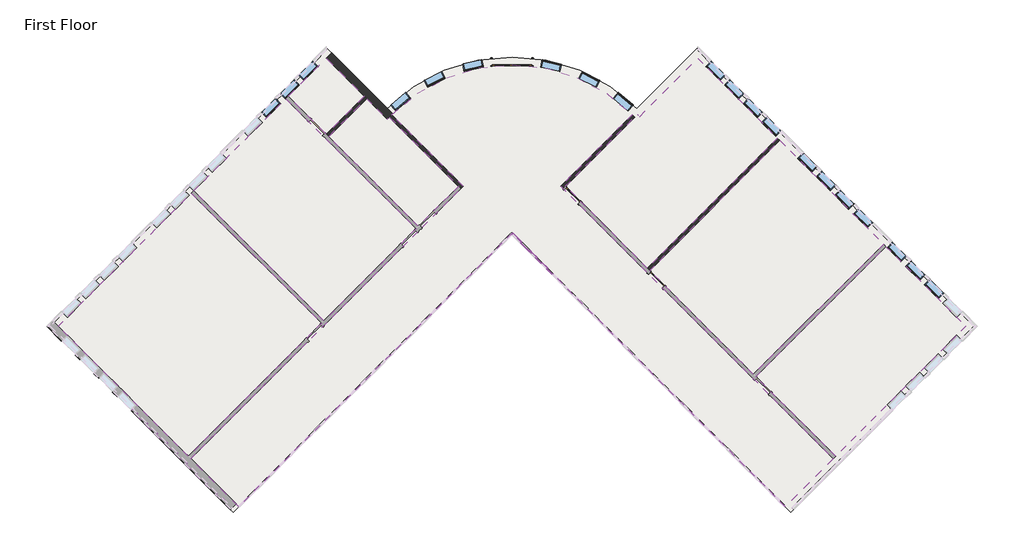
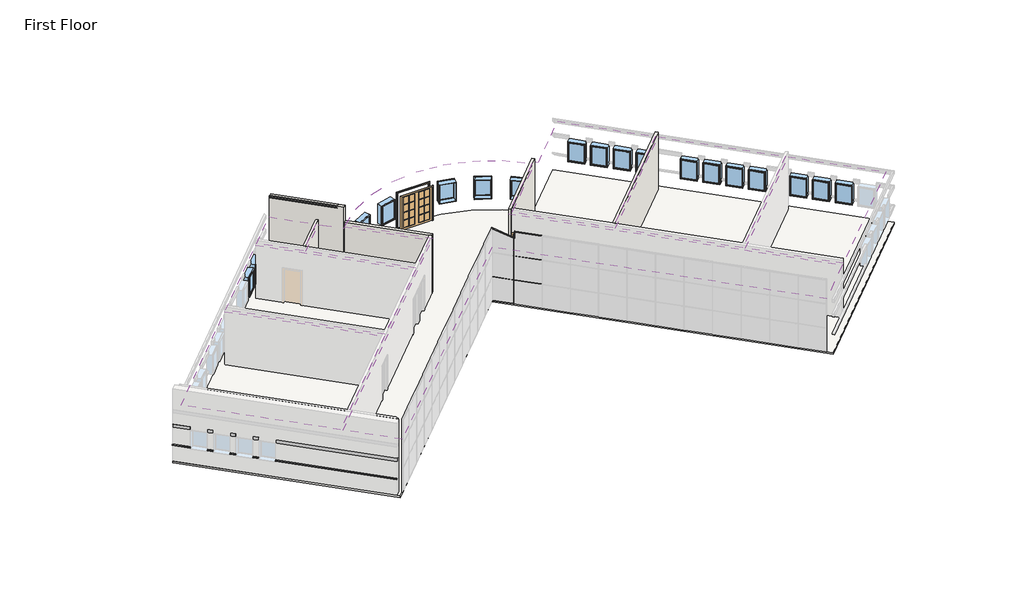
# One storey, part 4 of 5: 20 windows, 14 members, 8 coverings, 5 walls, 3 doors, 2 proxies, 1 slab.
"""IFC4 building model written with IfcOpenShell, lengths in millimetres."""

from ifc_helpers import new_model, si_unit, point, frame, frame_2d, origin, origin_with_axes, place, context, project, spatial, polyline, circle_curve, ellipse_curve, trimmed, segment, composite_curve, outline, extrude, faceted_brep, transform, mapped, element, save
from ifc_brep_helpers import plane_surface, cylinder_surface, revolved_surface, advanced_brep
from components import door_0a477ef8, door_5f5b55da, member_155beb68, member_42be4715, member_bd80eb51, member_a3731390, member_b87a50da, member_beb33b19, member_76f0c52a, member_6675e4ca, member_9574b3de, member_b73a8a31, member_4ed907bf, window_15c49d37, window_0e2fc6ce

model = new_model("IFC4")

# Units and contexts
model_context = context("Model", 3, world=origin())
ifc_project = project(units=[si_unit("LENGTHUNIT", "METRE", prefix="MILLI")], contexts=[model_context])

# Site, building, storey
site = spatial("IfcSite", under=ifc_project)
building = spatial("IfcBuilding", under=site)
storey = spatial("IfcBuildingStorey", under=building, Name="First Floor", Elevation=0.0)

# Proxies
placement = place(None, origin())
element("IfcBuildingElementProxy", 1, Name="Wall Sweeps", at=placement, inside=storey, context=model_context, shape_type="Brep", body=[
    faceted_brep([(-15859.0913754, -9789.3274758, 1085.85), (-15924.1982323, -9854.4343326, 1085.85), (-15948.8939367, -9879.130037, 1041.4), (-15948.8939367, -9879.130037, 1016.0), (-15924.1982323, -9854.4343326, 1016.0), (-15859.0913754, -9789.3274758, 1016.0), (-20459.2275735, -5189.1912777, 1085.85), (-20459.2275735, -5189.1912777, 1016.0), (-20524.3344303, -5254.2981346, 1016.0), (-20549.0301347, -5278.993839, 1016.0), (-20549.0301347, -5278.993839, 1041.4), (-20524.3344303, -5254.2981346, 1085.85)], [[[0, 1, 2, 3, 4, 5]], [[6, 7, 8, 9, 10, 11]], [[1, 0, 6, 11]], [[2, 1, 11, 10]], [[3, 2, 10, 9]], [[5, 4, 3, 9, 8, 7]], [[0, 5, 7, 6]]]),
    faceted_brep([(-21105.8060142, -4542.612837, 1085.85), (-21170.9128711, -4607.7196939, 1085.85), (-21195.6085754, -4632.4153982, 1041.4), (-21195.6085754, -4632.4153982, 1016.0), (-21170.9128711, -4607.7196939, 1016.0), (-21105.8060142, -4542.612837, 1016.0), (-21321.3321611, -4327.0866901, 1085.85), (-21321.3321611, -4327.0866901, 1016.0), (-21386.439018, -4392.193547, 1016.0), (-21411.1347223, -4416.8892513, 1016.0), (-21411.1347223, -4416.8892513, 1041.4), (-21386.439018, -4392.193547, 1085.85)], [[[0, 1, 2, 3, 4, 5]], [[6, 7, 8, 9, 10, 11]], [[1, 0, 6, 11]], [[2, 1, 11, 10]], [[3, 2, 10, 9]], [[5, 4, 3, 9, 8, 7]], [[0, 5, 7, 6]]]),
    faceted_brep([(-21967.9106018, -3680.5082494, 1085.85), (-22033.0174587, -3745.6151063, 1085.85), (-22057.713163, -3770.3108106, 1041.4), (-22057.713163, -3770.3108106, 1016.0), (-22033.0174587, -3745.6151063, 1016.0), (-21967.9106018, -3680.5082494, 1016.0), (-22183.4367487, -3464.9821025, 1085.85), (-22183.4367487, -3464.9821025, 1016.0), (-22248.5436056, -3530.0889594, 1016.0), (-22273.2393099, -3554.7846637, 1016.0), (-22273.2393099, -3554.7846637, 1041.4), (-22248.5436056, -3530.0889594, 1085.85)], [[[0, 1, 2, 3, 4, 5]], [[6, 7, 8, 9, 10, 11]], [[1, 0, 6, 11]], [[2, 1, 11, 10]], [[3, 2, 10, 9]], [[5, 4, 3, 9, 8, 7]], [[0, 5, 7, 6]]]),
    faceted_brep([(-22830.0151894, -2818.4036618, 1085.85), (-22895.1220463, -2883.5105187, 1085.85), (-22919.8177506, -2908.206223, 1041.4), (-22919.8177506, -2908.206223, 1016.0), (-22895.1220463, -2883.5105187, 1016.0), (-22830.0151894, -2818.4036618, 1016.0), (-23045.5413363, -2602.8775149, 1085.85), (-23045.5413363, -2602.8775149, 1016.0), (-23110.6481932, -2667.9843718, 1016.0), (-23135.3438975, -2692.6800761, 1016.0), (-23135.3438975, -2692.6800761, 1041.4), (-23110.6481932, -2667.9843718, 1085.85)], [[[0, 1, 2, 3, 4, 5]], [[6, 7, 8, 9, 10, 11]], [[1, 0, 6, 11]], [[2, 1, 11, 10]], [[3, 2, 10, 9]], [[5, 4, 3, 9, 8, 7]], [[0, 5, 7, 6]]]),
    faceted_brep([(-23692.119777, -1956.2990742, 1085.85), (-23757.2266339, -2021.405931, 1085.85), (-23781.9223383, -2046.1016354, 1041.4), (-23781.9223383, -2046.1016354, 1016.0), (-23757.2266339, -2021.405931, 1016.0), (-23692.119777, -1956.2990742, 1016.0), (-24290.4293411, -1357.9895101, 1085.85), (-24290.4293411, -1357.9895101, 1016.0), (-24470.0344635, -1357.9895101, 1016.0), (-24470.0344635, -1357.9895101, 1041.4), (-24420.6430549, -1357.9895101, 1085.85)], [[[0, 1, 2, 3, 4, 5]], [[6, 7, 8, 9, 10]], [[1, 0, 6, 10]], [[2, 1, 10, 9]], [[3, 2, 9, 8]], [[5, 4, 3, 8, 7]], [[0, 5, 7, 6]]]),
])
element("IfcBuildingElementProxy", 2, Name="Wall Sweeps", at=placement, inside=storey, context=model_context, shape_type="SweptSolid", body=[
    extrude(outline(polyline([(-15859.0913754, -9789.3274758), (-15924.1982323, -9854.4343326), (-20524.3344303, -5254.2981346), (-20459.2275735, -5189.1912777), (-15859.0913754, -9789.3274758)])), frame((0.0, 0.0, 2133.6), z_axis=(0.0, 0.0, 1.0), x_axis=(1.0, 0.0, 0.0)), (0.0, 0.0, 1.0), 203.2),
    extrude(outline(polyline([(-21105.8060142, -4542.612837), (-21170.9128711, -4607.7196939), (-21386.439018, -4392.193547), (-21321.3321611, -4327.0866901), (-21105.8060142, -4542.612837)])), frame((0.0, 0.0, 2133.6), z_axis=(0.0, 0.0, 1.0), x_axis=(1.0, 0.0, 0.0)), (0.0, 0.0, 1.0), 203.2),
    extrude(outline(polyline([(-21967.9106018, -3680.5082494), (-22033.0174587, -3745.6151063), (-22248.5436056, -3530.0889594), (-22183.4367487, -3464.9821025), (-21967.9106018, -3680.5082494)])), frame((0.0, 0.0, 2133.6), z_axis=(0.0, 0.0, 1.0), x_axis=(1.0, 0.0, 0.0)), (0.0, 0.0, 1.0), 203.2),
    extrude(outline(polyline([(-22830.0151894, -2818.4036618), (-22895.1220463, -2883.5105187), (-23110.6481932, -2667.9843718), (-23045.5413363, -2602.8775149), (-22830.0151894, -2818.4036618)])), frame((0.0, 0.0, 2133.6), z_axis=(0.0, 0.0, 1.0), x_axis=(1.0, 0.0, 0.0)), (0.0, 0.0, 1.0), 203.2),
    extrude(outline(polyline([(-23692.119777, -1956.2990742), (-23757.2266339, -2021.405931), (-24420.6430549, -1357.9895101), (-24290.4293411, -1357.9895101), (-23692.119777, -1956.2990742)])), frame((0.0, 0.0, 2133.6), z_axis=(0.0, 0.0, 1.0), x_axis=(1.0, 0.0, 0.0)), (0.0, 0.0, 1.0), 203.2),
])

# Coverings
element("IfcCovering", 3, ObjectType="2' x 2' ACT System", at=placement, inside=storey, context=model_context, shape_type="SweptSolid", body=[
    extrude(outline(polyline([(-11706.7276692, -1216.4326939), (-17885.2616628, -7394.9666875), (-23922.2388402, -1357.9895101), (-17743.7048466, 4820.5444835), (-11706.7276692, -1216.4326939)])), frame((0.0, 0.0, 3352.8), z_axis=(0.0, 0.0, 1.0), x_axis=(1.0, 0.0, 0.0)), (0.0, 0.0, 1.0), 57.15),
])
element("IfcCovering", 4, ObjectType="2' x 2' ACT System", at=placement, inside=storey, context=model_context, shape_type="SweptSolid", body=[
    extrude(outline(polyline([(-17633.6967091, 4930.552621), (-13359.2125777, 9205.0367523), (-7322.2354004, 3168.0595749), (-11596.7195317, -1106.4245564), (-17633.6967091, 4930.552621)])), frame((0.0, 0.0, 3352.8), z_axis=(0.0, 0.0, 1.0), x_axis=(1.0, 0.0, 0.0)), (0.0, 0.0, 1.0), 57.15),
])
element("IfcCovering", 5, ObjectType="2' x 2' ACT System", at=placement, inside=storey, context=model_context, shape_type="SweptSolid", body=[
    extrude(outline(polyline([(-13249.2044403, 9315.0448898), (-11489.0742405, 11075.1750895), (-9728.9440408, 9315.0448898), (-11489.0742405, 7554.9146901), (-13249.2044403, 9315.0448898)])), frame((0.0, 0.0, 3352.8), z_axis=(0.0, 0.0, 1.0), x_axis=(1.0, 0.0, 0.0)), (0.0, 0.0, 1.0), 57.15),
])
element("IfcCovering", 6, ObjectType="2' x 2' ACT System", at=placement, inside=storey, context=model_context, shape_type="SweptSolid", body=[
    extrude(outline(composite_curve([segment(polyline([(-11379.066103, 7444.9065526), (-9618.9359033, 9205.0367523), (-8658.0122729, 8244.1131219)]), True, "CONTINUOUS"), segment(trimmed(circle_curve(frame_2d((-2868.0283643, 2903.1420194)), 7877.175), [point((-8658.0122729, 8244.1131219))], [point((-8557.7157352, 8350.8336041))], False, "CARTESIAN"), True, "CONTINUOUS"), segment(polyline([(-8557.7157352, 8350.8336041), (-5348.5885532, 5141.7064221), (-7212.2272629, 3278.0677124), (-11379.066103, 7444.9065526)]), True, "CONTINUOUS")], self_intersect=False)), frame((0.0, 0.0, 3352.8), z_axis=(0.0, 0.0, 1.0), x_axis=(1.0, 0.0, 0.0)), (0.0, 0.0, 1.0), 57.15),
])
element("IfcCovering", 7, ObjectType="2' x 2' ACT System", at=placement, inside=storey, context=model_context, shape_type="SweptSolid", body=[
    extrude(outline(composite_curve([segment(polyline([(-607.4844504, 5141.7064221), (12039.1967967, -7504.974825), (9814.3383427, -9729.833279), (-2868.0283643, 2952.533428), (-15550.3950713, -9729.833279), (-17775.2535253, -7504.974825), (-5128.5722782, 5141.7064221), (-8449.0111375, 8462.1452813)]), True, "CONTINUOUS"), segment(trimmed(circle_curve(frame_2d((-2868.0283643, 2903.1420194)), 7877.175), [point((-8449.0111375, 8462.1452813))], [point((2712.9544089, 8462.1452813))], False, "CARTESIAN"), True, "CONTINUOUS"), segment(polyline([(2712.9544089, 8462.1452813), (-607.4844504, 5141.7064221)]), True, "CONTINUOUS")], self_intersect=False)), frame((0.0, 0.0, 3352.8), z_axis=(0.0, 0.0, 1.0), x_axis=(1.0, 0.0, 0.0)), (0.0, 0.0, 1.0), 57.15),
])
element("IfcCovering", 8, ObjectType="2' x 2' ACT System", at=placement, inside=storey, context=model_context, shape_type="SweptSolid", body=[
    extrude(outline(polyline([(2947.192033, 8476.3666305), (3050.2065213, 8372.3640989), (5753.0175119, 11075.1750895), (9452.8830338, 7375.3095676), (3415.9058564, 1338.3323903), (-387.4681754, 5141.7064221), (2947.192033, 8476.3666305)])), frame((0.0, 0.0, 3352.8), z_axis=(0.0, 0.0, 1.0), x_axis=(1.0, 0.0, 0.0)), (0.0, 0.0, 1.0), 57.15),
])
element("IfcCovering", 9, ObjectType="2' x 2' ACT System", at=placement, inside=storey, context=model_context, shape_type="SweptSolid", body=[
    extrude(outline(polyline([(3525.9139939, 1228.3242528), (9562.8911713, 7265.3014302), (14376.3084522, 2451.8841493), (8339.3312748, -3585.0930281), (3525.9139939, 1228.3242528)])), frame((0.0, 0.0, 3352.8), z_axis=(0.0, 0.0, 1.0), x_axis=(1.0, 0.0, 0.0)), (0.0, 0.0, 1.0), 57.15),
])
element("IfcCovering", 10, ObjectType="2' x 2' ACT System", at=placement, inside=storey, context=model_context, shape_type="SweptSolid", body=[
    extrude(outline(polyline([(8449.3394123, -3695.1011656), (14486.3165897, 2341.8760118), (18186.1821115, -1357.9895101), (12149.2049342, -7394.9666875), (8449.3394123, -3695.1011656)])), frame((0.0, 0.0, 3352.8), z_axis=(0.0, 0.0, 1.0), x_axis=(1.0, 0.0, 0.0)), (0.0, 0.0, 1.0), 57.15),
])

# Doors
door_shape = door_0a477ef8(model_context)
element("IfcDoor", 11, ObjectType="Double-Glass 2 : 72\" x 84\"", at=placement, inside=storey, context=model_context, shape_type="MappedRepresentation", body=[
    mapped(door_shape, transform((-2868.7603243, 10905.5717204, 0.0), x_axis=(-0.9999999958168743, -9.146721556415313e-05, 0.0), y_axis=(9.146721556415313e-05, -0.9999999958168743, 0.0), z_axis=(0.0, 0.0, 1.0))),
])
door_2_shape = door_5f5b55da(model_context)
element("IfcDoor", 12, ObjectType="Single-Glass 1 : 36\" x 84\"", at=placement, inside=storey, context=model_context, shape_type="MappedRepresentation", body=[
    mapped(door_2_shape, transform((-66.4240191, 4710.6541283, 0.0), x_axis=(-0.7071067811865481, 0.7071067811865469, 0.0), y_axis=(-0.7071067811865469, -0.7071067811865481, 0.0), z_axis=(0.0, 0.0, 1.0))),
])
element("IfcDoor", 13, ObjectType="Single-Glass 1 : 36\" x 84\"", at=placement, inside=storey, context=model_context, shape_type="MappedRepresentation", body=[
    mapped(door_2_shape, transform((3846.9581502, 797.271959, 0.0), x_axis=(-0.7071067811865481, 0.7071067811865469, 0.0), y_axis=(-0.7071067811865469, -0.7071067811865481, 0.0), z_axis=(0.0, 0.0, 1.0))),
])

# Members
member_shape = member_155beb68(model_context)
element("IfcMember", 14, ObjectType="Rectangular Mullion : 1.5\" x 2.5\" Rectangular", at=placement, inside=storey, context=model_context, shape_type="MappedRepresentation", body=[
    mapped(member_shape, transform((-2039.5997371, 2124.1048009, 1524.0), x_axis=(-0.7071067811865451, 0.70710678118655, 0.0), y_axis=(0.70710678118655, 0.7071067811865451, 0.0), z_axis=(0.0, 0.0, -1.0))),
])
element("IfcMember", 15, ObjectType="Rectangular Mullion : 1.5\" x 2.5\" Rectangular", at=placement, inside=storey, context=model_context, shape_type="MappedRepresentation", body=[
    mapped(member_shape, transform((-2039.5997371, 2124.1048009, 0.0), x_axis=(-0.7071067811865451, 0.70710678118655, 0.0), y_axis=(0.70710678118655, 0.7071067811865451, 0.0), z_axis=(0.0, 0.0, -1.0))),
])
member_2_shape = member_42be4715(model_context)
element("IfcMember", 16, ObjectType="Rectangular Mullion : 1.5\" x 2.5\" Rectangular", at=placement, inside=storey, context=model_context, shape_type="MappedRepresentation", body=[
    mapped(member_2_shape, transform((-2026.129353, 2110.6344167, 3048.0), x_axis=(0.0, 0.0, 1.0), y_axis=(0.7071067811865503, 0.7071067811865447, 0.0), z_axis=(-0.7071067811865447, 0.7071067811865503, 0.0))),
])
element("IfcMember", 17, ObjectType="Rectangular Mullion : 1.5\" x 2.5\" Rectangular", at=placement, inside=storey, context=model_context, shape_type="MappedRepresentation", body=[
    mapped(member_2_shape, transform((-2026.129353, 2110.6344167, 1524.0), x_axis=(0.0, 0.0, 1.0), y_axis=(0.7071067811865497, 0.7071067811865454, 0.0), z_axis=(-0.7071067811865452, 0.7071067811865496, 0.0))),
])
member_3_shape = member_bd80eb51(model_context)
element("IfcMember", 18, ObjectType="Rectangular Mullion : 1.5\" x 2.5\" Rectangular", at=placement, inside=storey, context=model_context, shape_type="MappedRepresentation", body=[
    mapped(member_3_shape, transform((-2053.0701213, 2137.575185, 0.0), x_axis=(0.0, 0.0, -1.0), y_axis=(0.7071067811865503, 0.7071067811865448, 0.0), z_axis=(0.7071067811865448, -0.7071067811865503, 0.0))),
])
member_4_shape = member_a3731390(model_context)
element("IfcMember", 19, ObjectType="Rectangular Mullion : 1.5\" x 2.5\" Rectangular", at=placement, inside=storey, context=model_context, shape_type="MappedRepresentation", body=[
    mapped(member_4_shape, transform((-2841.0875959, 2925.5926597, 1524.0), x_axis=(0.0, 0.0, 1.0), y_axis=(0.7071067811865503, 0.7071067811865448, 0.0), z_axis=(-0.7071067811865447, 0.7071067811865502, 0.0))),
])
member_5_shape = member_b87a50da(model_context)
element("IfcMember", 20, ObjectType="Rectangular Mullion : 1.5\" x 2.5\" Rectangular", at=placement, inside=storey, context=model_context, shape_type="MappedRepresentation", body=[
    mapped(member_5_shape, transform((-2868.0283643, 2952.533428, 0.0), x_axis=(-0.7071067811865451, 0.70710678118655, 0.0), y_axis=(0.70710678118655, 0.7071067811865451, 0.0), z_axis=(0.0, 0.0, -1.0))),
])
element("IfcMember", 21, ObjectType="Rectangular Mullion : 1.5\" x 2.5\" Rectangular", at=placement, inside=storey, context=model_context, shape_type="MappedRepresentation", body=[
    mapped(member_5_shape, transform((-2868.0283643, 2952.533428, 1524.0), x_axis=(-0.7071067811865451, 0.70710678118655, 0.0), y_axis=(0.70710678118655, 0.7071067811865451, 0.0), z_axis=(0.0, 0.0, -1.0))),
])
member_6_shape = member_beb33b19(model_context)
element("IfcMember", 22, ObjectType="Rectangular Mullion : 1.5\" x 2.5\" Rectangular", at=placement, inside=storey, context=model_context, shape_type="MappedRepresentation", body=[
    mapped(member_6_shape, transform((-2039.5997371, 2124.1048009, 4181.475), x_axis=(0.22360679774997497, -0.2236067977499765, 0.9486832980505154), y_axis=(0.7071067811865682, 0.7071067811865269, 0.0), z_axis=(-0.6708203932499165, 0.6708203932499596, 0.31622776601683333))),
])
member_7_shape = member_76f0c52a(model_context)
element("IfcMember", 23, ObjectType="Rectangular Mullion : 1.5\" x 2.5\" Rectangular", at=placement, inside=storey, context=model_context, shape_type="MappedRepresentation", body=[
    mapped(member_7_shape, transform((-2868.0283643, 2952.533428, 4572.0), x_axis=(0.2236067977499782, -0.2236067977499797, 0.9486832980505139), y_axis=(0.7071067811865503, 0.7071067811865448, 0.0), z_axis=(-0.6708203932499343, 0.6708203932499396, 0.3162277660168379))),
])
member_8_shape = member_6675e4ca(model_context)
element("IfcMember", 24, ObjectType="Rectangular Mullion : 1.5\" x 2.5\" Rectangular", at=placement, inside=storey, context=model_context, shape_type="MappedRepresentation", body=[
    mapped(member_8_shape, transform((-2005.9237767, 2090.4288404, 4165.6), x_axis=(-0.7071067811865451, 0.70710678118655, 0.0), y_axis=(0.70710678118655, 0.7071067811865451, 0.0), z_axis=(0.0, 0.0, -1.0))),
])
member_9_shape = member_9574b3de(model_context)
element("IfcMember", 25, ObjectType="Rectangular Mullion : 1.5\" x 2.5\" Rectangular", at=placement, inside=storey, context=model_context, shape_type="MappedRepresentation", body=[
    mapped(member_9_shape, transform((-1978.9830083, 2063.488072, 4572.0), x_axis=(0.0, 0.0, 1.0), y_axis=(0.707106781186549, 0.707106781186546, 0.0), z_axis=(-0.7071067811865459, 0.7071067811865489, 0.0))),
])
member_10_shape = member_b73a8a31(model_context)
element("IfcMember", 26, ObjectType="Rectangular Mullion : 1.5\" x 2.5\" Rectangular", at=placement, inside=storey, context=model_context, shape_type="MappedRepresentation", body=[
    mapped(member_10_shape, transform((-2039.5997371, 2124.1048009, 3048.0), x_axis=(-0.7071067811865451, 0.70710678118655, 0.0), y_axis=(0.70710678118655, 0.7071067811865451, 0.0), z_axis=(0.0, 0.0, -1.0))),
])
member_11_shape = member_4ed907bf(model_context)
element("IfcMember", 27, ObjectType="Rectangular Mullion : 1.5\" x 2.5\" Rectangular", at=placement, inside=storey, context=model_context, shape_type="MappedRepresentation", body=[
    mapped(member_11_shape, transform((-2868.0283643, 2952.533428, 3048.0), x_axis=(-0.7071067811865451, 0.70710678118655, 0.0), y_axis=(0.70710678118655, 0.7071067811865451, 0.0), z_axis=(0.0, 0.0, -1.0))),
])

# Slab
element("IfcSlab", 28, ObjectType="4\" Concrete Slab", at=placement, inside=storey, context=model_context, shape_type="SweptSolid", body=[
    extrude(outline(composite_curve([segment(polyline([(2926.4294954, 8746.9912878), (5753.0175119, 11573.5793042), (18684.5863263, -1357.9895101), (10063.54045, -9979.0353863), (-2868.0283643, 2952.533428), (-15799.5971786, -9979.0353863), (-24420.6430549, -1357.9895101), (-11489.0742405, 11573.5793042), (-8662.486224, 8746.9912878)]), True, "CONTINUOUS"), segment(trimmed(circle_curve(frame_2d((-2868.0283643, 2903.1420194)), 8229.6), [point((-8662.486224, 8746.9912878))], [point((2926.4294954, 8746.9912878))], False, "CARTESIAN"), True, "CONTINUOUS")], self_intersect=False)), frame((0.0, 0.0, -101.6), z_axis=(0.0, 0.0, 1.0), x_axis=(1.0, 0.0, 0.0)), (0.0, 0.0, 1.0), 101.6),
])

# Walls
element("IfcWall", 29, ObjectType="Exterior - Split Face and CMU on Mtl. Stud", at=placement, inside=storey, context=model_context, shape_type="AdvancedBrep", body=[
    advanced_brep(
    [(-11489.0742405, 11075.1750895, 0.0), (-9728.9440408, 9315.0448898, 0.0), (-9618.9359033, 9205.0367523, 0.0), (-8658.0122729, 8244.1131219, 0.0), (-8658.0122729, 8244.1131219, 4689.475), (-11489.0742405, 11075.1750895, 4689.475), (-11489.0742405, 11075.1750895, 4639.3965909), (-8911.6883314, 8497.7891804, 4639.3965909), (-8911.6883314, 8497.7891804, 4572.0), (-11489.0742405, 11075.1750895, 4572.0), (-8413.2817722, 8497.7868359, 4572.0), (-8413.2817722, 8497.7868359, 0.0), (-8662.486224, 8746.9912878, 0.0), (-11239.8721332, 11324.3771969, 0.0), (-11239.8721332, 11324.3771969, 1016.0), (-8662.486224, 8746.9912878, 1016.0), (-8597.3787742, 8681.8838379, 1016.0), (-8597.3787742, 8681.8838379, 1085.85), (-8662.486224, 8746.9912878, 1085.85), (-11239.8721332, 11324.3771969, 1085.85), (-11239.8721332, 11324.3771969, 2133.6), (-8662.486224, 8746.9912878, 2133.6), (-8597.3787742, 8681.8838379, 2133.6), (-8597.3787742, 8681.8838379, 2336.8), (-8662.486224, 8746.9912878, 2336.8), (-11239.8721332, 11324.3771969, 2336.8), (-11239.8721332, 11324.3771969, 3048.0), (-8662.486224, 8746.9912878, 3048.0), (-8597.3787742, 8681.8838379, 3048.0), (-8597.3787742, 8681.8838379, 3251.2), (-8662.486224, 8746.9912878, 3251.2), (-11239.8721332, 11324.3771969, 3251.2), (-11239.8721332, 11324.3771969, 4572.0), (-8662.486224, 8746.9912878, 4572.0), (-8557.713594, 8350.8358404, 0.0), (-8478.2967797, 8432.5881297, 0.0), (-8449.0111375, 8462.1452813, 0.0), (-11304.9789901, 11259.27034, 0.0), (-11304.9789901, 11259.27034, 3251.2), (-11304.9789901, 11259.27034, 3048.0), (-11304.9789901, 11259.27034, 2336.8), (-11304.9789901, 11259.27034, 2133.6), (-11304.9789901, 11259.27034, 1085.85), (-11304.9789901, 11259.27034, 1016.0), (-11413.683542, 11150.5657881, 4653.9354839), (-8836.2976328, 8573.179879, 4653.9354839), (-8662.3967205, 8616.6880705, 1085.85), (-8662.3967205, 8616.6880705, 1016.0), (-8662.3967205, 8616.6880705, 2336.8), (-8662.3967205, 8616.6880705, 2133.6), (-8662.3967205, 8616.6880705, 3251.2), (-8662.3967205, 8616.6880705, 3048.0)],
    [
        (0, 1),
        (1, 2),
        (2, 3),
        (3, 4),
        (4, 5),
        (5, 6),
        (6, 7),
        (7, 8),
        (8, 9),
        (9, 0),
        (10, 11),
        (11, 12),
        (12, 13),
        (13, 14),
        (14, 15),
        (15, 16),
        (16, 17),
        (17, 18),
        (18, 19),
        (19, 20),
        (20, 21),
        (21, 22),
        (22, 23),
        (23, 24),
        (24, 25),
        (25, 26),
        (26, 27),
        (27, 28),
        (28, 29),
        (29, 30),
        (30, 31),
        (31, 32),
        (32, 33),
        (33, 10),
        (3, 34, circle_curve(frame((-2868.0283643, 2903.1420194, 0.0), z_axis=(0.0, 0.0, -1.0), x_axis=(1.0, 0.0, 0.0)), 7877.175)),
        (34, 35, circle_curve(frame((-2868.0283643, 2903.1420194, 0.0), z_axis=(0.0, 0.0, -1.0), x_axis=(1.0, 0.0, 0.0)), 7877.175)),
        (35, 36, circle_curve(frame((-2868.0283643, 2903.1420194, 0.0), z_axis=(0.0, 0.0, -1.0), x_axis=(1.0, 0.0, 0.0)), 7877.175)),
        (36, 11, circle_curve(frame((-2868.0283643, 2903.1420194, 0.0), z_axis=(0.0, 0.0, -1.0), x_axis=(1.0, 0.0, 0.0)), 7877.175)),
        (10, 4, ellipse_curve(frame((-2868.0283643, 2903.1420194, 4583.6416667), z_axis=(0.2236067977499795, 0.22360679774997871, 0.9486832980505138), x_axis=(0.6708203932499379, 0.6708203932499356, -0.31622776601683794)), 8303.2715092, 7877.175)),
        (37, 0),
        (9, 32),
        (31, 38),
        (38, 39),
        (39, 26),
        (25, 40),
        (40, 41),
        (41, 20),
        (19, 42),
        (42, 43),
        (43, 14),
        (13, 37),
        (5, 44),
        (44, 6),
        (33, 45),
        (45, 44),
        (37, 35),
        (46, 47),
        (47, 43),
        (42, 46),
        (17, 46, circle_curve(frame((-2868.0283643, 2903.1420194, 1085.85), z_axis=(0.0, 0.0, 1.0), x_axis=(-0.7040995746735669, 0.7101012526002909, 0.0)), 8137.525)),
        (47, 16, circle_curve(frame((-2868.0283643, 2903.1420194, 1016.0), z_axis=(0.0, 0.0, -1.0), x_axis=(-0.7040995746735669, 0.7101012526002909, 0.0)), 8137.525)),
        (48, 49),
        (49, 41),
        (40, 48),
        (49, 22, circle_curve(frame((-2868.0283643, 2903.1420194, 2133.6), z_axis=(0.0, 0.0, -1.0), x_axis=(-0.7120553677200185, 0.70212331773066, 0.0)), 8137.525)),
        (48, 23, circle_curve(frame((-2868.0283643, 2903.1420194, 2336.8), z_axis=(0.0, 0.0, -1.0), x_axis=(-0.7120553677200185, 0.70212331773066, 0.0)), 8137.525)),
        (50, 51),
        (51, 39),
        (38, 50),
        (51, 28, circle_curve(frame((-2868.0283643, 2903.1420194, 3048.0), z_axis=(0.0, 0.0, -1.0), x_axis=(-0.7120553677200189, 0.7021233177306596, 0.0)), 8137.525)),
        (50, 29, circle_curve(frame((-2868.0283643, 2903.1420194, 3251.2), z_axis=(0.0, 0.0, -1.0), x_axis=(-0.7120553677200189, 0.7021233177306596, 0.0)), 8137.525)),
        (8, 33),
        (7, 45),
    ],
    [
        plane_surface(frame((-11738.2763479, 11324.3771969, 0.0), z_axis=(-0.7071067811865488, -0.7071067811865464, 0.0), x_axis=(0.7071067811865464, -0.7071067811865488, 0.0))),
        plane_surface(frame((-11489.0742405, 11573.5793042, 0.0), z_axis=(0.7071067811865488, 0.7071067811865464, 0.0), x_axis=(-0.7071067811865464, 0.7071067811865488, 0.0))),
        revolved_surface(polyline([(5009.146635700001, 2903.1420194, 0.0), (5009.146635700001, 2903.1420194, 7209.366666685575)]), (-2868.0283643, 2903.1420194, 0.0), (0.0, 0.0, -1.0)),
        plane_surface(frame((-24171.4409475, -1607.1916175, 0.0), z_axis=(-0.7071067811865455, 0.7071067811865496, 0.0), x_axis=(0.7071067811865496, 0.7071067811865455, 0.0))),
        plane_surface(frame((-1143.8191891, 2952.533428, 4165.6), z_axis=(0.2236067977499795, 0.22360679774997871, 0.9486832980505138), x_axis=(-0.7071067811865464, 0.7071067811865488, 0.0))),
        plane_surface(frame((-11613.6752942, 11199.7761432, 0.0), z_axis=(0.0, 0.0, -1.0000000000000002), x_axis=(0.7071067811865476, 0.7071067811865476, 0.0))),
        plane_surface(frame((0.0, 0.0, 0.0), z_axis=(0.0, 0.0, -1.0), x_axis=(1.0, 0.0, 0.0))),
        plane_surface(frame((-11489.0742405, 11443.3655905, 1016.0), z_axis=(0.7071067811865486, 0.7071067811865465, 0.0), x_axis=(0.7071067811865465, -0.7071067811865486, 0.0))),
        plane_surface(frame((-2868.0283643, 2903.1420194, 1085.85), z_axis=(0.0, 0.0, -1.0), x_axis=(-0.7040995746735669, 0.7101012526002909, 0.0))),
        plane_surface(frame((-2868.0283643, 2903.1420194, 1016.0), z_axis=(0.0, 0.0, 1.0), x_axis=(-0.7040995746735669, 0.7101012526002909, 0.0))),
        cylinder_surface(frame((-2868.0283643, 2903.1420194, 1016.0), z_axis=(0.0, 0.0, -1.0), x_axis=(-0.7040995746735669, 0.7101012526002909, 0.0)), 8137.525),
        plane_surface(frame((-11489.0742405, 11443.3655905, 2133.6), z_axis=(0.7071067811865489, 0.7071067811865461, 0.0), x_axis=(0.7071067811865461, -0.7071067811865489, 0.0))),
        plane_surface(frame((-2868.0283643, 2903.1420194, 2133.6), z_axis=(0.0, 0.0, 1.0), x_axis=(-0.7120553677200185, 0.70212331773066, 0.0))),
        cylinder_surface(frame((-2868.0283643, 2903.1420194, 2133.6), z_axis=(0.0, 0.0, -1.0), x_axis=(-0.7120553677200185, 0.70212331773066, 0.0)), 8137.525),
        plane_surface(frame((-2868.0283643, 2903.1420194, 2336.8), z_axis=(0.0, 0.0, -1.0), x_axis=(-0.7120553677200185, 0.70212331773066, 0.0))),
        plane_surface(frame((-11489.0742405, 11443.3655905, 3048.0), z_axis=(0.7071067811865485, 0.7071067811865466, 0.0), x_axis=(0.7071067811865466, -0.7071067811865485, 0.0))),
        plane_surface(frame((-2868.0283643, 2903.1420194, 3048.0), z_axis=(0.0, 0.0, 1.0), x_axis=(-0.7120553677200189, 0.7021233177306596, 0.0))),
        cylinder_surface(frame((-2868.0283643, 2903.1420194, 3048.0), z_axis=(0.0, 0.0, -1.0), x_axis=(-0.7120553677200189, 0.7021233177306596, 0.0)), 8137.525),
        plane_surface(frame((-2868.0283643, 2903.1420194, 3251.2), z_axis=(0.0, 0.0, -1.0), x_axis=(-0.7120553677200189, 0.7021233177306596, 0.0))),
        plane_surface(frame((-24438.6035671, -1340.0289979, 4572.0), z_axis=(0.0, 0.0, 1.0), x_axis=(0.7071067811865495, 0.7071067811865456, 0.0))),
        plane_surface(frame((-8662.486224, 8746.9912878, 4185.7445793), z_axis=(-0.7071067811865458, 0.7071067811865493, 0.0), x_axis=(0.7071067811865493, 0.7071067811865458, 0.0))),
        plane_surface(frame((-11489.0742405, 11034.763937, 4635.5), z_axis=(0.09553946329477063, 0.09553946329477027, -0.9908301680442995), x_axis=(0.7071067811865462, -0.7071067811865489, 0.0))),
    ],
    [
        (0, [[1, 2, 3, 4, 5, 6, 7, 8, 9, 10]]),
        (1, [[11, 12, 13, 14, 15, 16, 17, 18, 19, 20, 21, 22, 23, 24, 25, 26, 27, 28, 29, 30, 31, 32, 33, 34]]),
        (2, [[-4, 35, 36, 37, 38, -11, 39]]),
        (3, [[40, -10, 41, -32, 42, 43, 44, -26, 45, 46, 47, -20, 48, 49, 50, -14, 51]]),
        (3, [[-6, 52, 53]]),
        (4, [[-5, -39, -34, 54, 55, -52]]),
        (5, [[-3, -2, -1, -40, 56, -36, -35]]),
        (6, [[-51, -13, -12, -38, -37, -56]]),
        (7, [[57, 58, -49, 59]]),
        (8, [[60, -59, -48, -19, -18]]),
        (9, [[-58, 61, -16, -15, -50]]),
        (10, [[-57, -60, -17, -61]]),
        (11, [[62, 63, -46, 64]]),
        (12, [[-63, 65, -22, -21, -47]]),
        (13, [[-62, 66, -23, -65]]),
        (14, [[-66, -64, -45, -25, -24]]),
        (15, [[67, 68, -43, 69]]),
        (16, [[-68, 70, -28, -27, -44]]),
        (17, [[-67, 71, -29, -70]]),
        (18, [[-71, -69, -42, -31, -30]]),
        (19, [[72, -33, -41, -9]]),
        (20, [[73, -54, -72, -8]]),
        (21, [[-73, -7, -53, -55]]),
    ],
),
])
element("IfcWall", 30, ObjectType="Interior - 6 1/8\" Partition (2-hr)", at=placement, inside=storey, context=model_context, shape_type="AdvancedBrep", body=[
    advanced_brep(
    [(-5128.5722782, 5141.7064221, 0.0), (-8449.0111375, 8462.1452813, 0.0), (-8449.0111375, 8462.1452813, 3657.6), (-5128.5722782, 5141.7064221, 3657.6), (-5238.5804157, 5031.6982846, 0.0), (-5238.5804157, 5031.6982846, 3657.6), (-5348.5885532, 5141.7064221, 3657.6), (-8557.7157352, 8350.8336041, 3657.6), (-8557.7157352, 8350.8336041, 0.0), (-5348.5885532, 5141.7064221, 0.0)],
    [
        (0, 1),
        (1, 2),
        (2, 3),
        (3, 0),
        (4, 5),
        (5, 6),
        (6, 7),
        (7, 8),
        (8, 9),
        (9, 4),
        (0, 4),
        (8, 1, circle_curve(frame((-2868.0283643, 2903.1420194, 0.0), z_axis=(0.0, 0.0, -1.0), x_axis=(1.0, 0.0, 0.0)), 7877.175)),
        (2, 7, circle_curve(frame((-2868.0283643, 2903.1420194, 3657.6), z_axis=(0.0, 0.0, 1.0), x_axis=(1.0, 0.0, 0.0)), 7877.175)),
        (5, 3),
    ],
    [
        plane_surface(frame((-5183.576347, 5196.7104908, 0.0), z_axis=(0.7071067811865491, 0.7071067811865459, 0.0), x_axis=(-0.7071067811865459, 0.7071067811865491, 0.0))),
        plane_surface(frame((-5293.5844845, 5086.7023533, 0.0), z_axis=(-0.7071067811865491, -0.7071067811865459, 0.0), x_axis=(0.7071067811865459, -0.7071067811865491, 0.0))),
        plane_surface(frame((-5183.576347, 5196.7104908, 0.0), z_axis=(0.0, 0.0, -1.0), x_axis=(-0.707106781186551, -0.7071067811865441, 0.0))),
        plane_surface(frame((-8573.2406241, 8586.374768, 3657.6), z_axis=(0.0, 0.0, 1.0), x_axis=(-0.707106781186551, -0.7071067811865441, 0.0))),
        plane_surface(frame((-17899.854579, -7629.5758786, 0.0), z_axis=(0.7071067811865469, -0.7071067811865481, 0.0), x_axis=(0.7071067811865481, 0.7071067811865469, 0.0))),
        cylinder_surface(frame((-2868.0283643, 2903.1420194, 0.0), z_axis=(0.0, 0.0, -1.0), x_axis=(1.0, 0.0, 0.0)), 7877.175),
    ],
    [
        (0, [[1, 2, 3, 4]]),
        (1, [[5, 6, 7, 8, 9, 10]]),
        (2, [[-1, 11, -10, -9, 12]]),
        (3, [[-3, 13, -7, -6, 14]]),
        (4, [[-4, -14, -5, -11]]),
        (5, [[-2, -12, -8, -13]]),
    ],
),
])
element("IfcWall", 31, ObjectType="Interior - 6 1/8\" Partition (2-hr)", at=placement, inside=storey, context=model_context, shape_type="SweptSolid", body=[
    extrude(outline(polyline([(-11489.0742405, 7554.9146901), (-9728.9440408, 9315.0448898), (-9618.9359033, 9205.0367523), (-11379.066103, 7444.9065526), (-11489.0742405, 7554.9146901)])), origin_with_axes(), (0.0, 0.0, 1.0), 3657.6),
])
element("IfcWall", 32, ObjectType="Interior - 6 1/8\" Partition (2-hr)", at=placement, inside=storey, context=model_context, shape_type="AdvancedBrep", body=[
    advanced_brep(
    [(-497.4763129, 5031.6982846, 0.0), (-387.4681754, 5141.7064221, 0.0), (2821.6590066, 8350.8336041, 0.0), (2821.6590066, 8350.8336041, 3657.6), (-387.4681754, 5141.7064221, 3657.6), (-497.4763129, 5031.6982846, 3657.6), (-607.4844504, 5141.7064221, 0.0), (-607.4844504, 5141.7064221, 3657.6), (2712.9544089, 8462.1452813, 3657.6), (2712.9544089, 8462.1452813, 0.0)],
    [
        (0, 1),
        (1, 2),
        (2, 3),
        (3, 4),
        (4, 5),
        (5, 0),
        (6, 7),
        (7, 8),
        (8, 9),
        (9, 6),
        (0, 6),
        (9, 2, circle_curve(frame((-2868.0283643, 2903.1420194, 0.0), z_axis=(0.0, 0.0, -1.0), x_axis=(1.0, 0.0, 0.0)), 7877.175)),
        (3, 8, circle_curve(frame((-2868.0283643, 2903.1420194, 3657.6), z_axis=(0.0, 0.0, 1.0), x_axis=(1.0, 0.0, 0.0)), 7877.175)),
        (7, 5),
    ],
    [
        plane_surface(frame((-442.4722441, 5086.7023533, 0.0), z_axis=(0.7071067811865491, -0.7071067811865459, 0.0), x_axis=(0.7071067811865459, 0.7071067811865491, 0.0))),
        plane_surface(frame((-552.4803816, 5196.7104908, 0.0), z_axis=(-0.7071067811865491, 0.7071067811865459, 0.0), x_axis=(-0.7071067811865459, -0.7071067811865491, 0.0))),
        plane_surface(frame((-442.4722441, 5086.7023533, 0.0), z_axis=(0.0, 0.0, -1.0), x_axis=(-0.707106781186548, 0.7071067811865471, 0.0))),
        plane_surface(frame((2947.192033, 8476.3666305, 3657.6), z_axis=(0.0, 0.0, 1.0000000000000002), x_axis=(-0.7071067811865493, 0.7071067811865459, 0.0))),
        plane_surface(frame((12163.7978503, -7629.5758786, 0.0), z_axis=(-0.7071067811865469, -0.7071067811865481, 0.0), x_axis=(0.7071067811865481, -0.7071067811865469, 0.0))),
        cylinder_surface(frame((-2868.0283643, 2903.1420194, 0.0), z_axis=(0.0, 0.0, -1.0), x_axis=(1.0, 0.0, 0.0)), 7877.175),
    ],
    [
        (0, [[1, 2, 3, 4, 5, 6]]),
        (1, [[7, 8, 9, 10]]),
        (2, [[-2, -1, 11, -10, 12]]),
        (3, [[-5, -4, 13, -8, 14]]),
        (4, [[-6, -14, -7, -11]]),
        (5, [[-3, -12, -9, -13]]),
    ],
),
])
element("IfcWall", 33, ObjectType="Interior - 6 1/8\" Partition (2-hr)", at=placement, inside=storey, context=model_context, shape_type="SweptSolid", body=[
    extrude(outline(polyline([(3415.9058564, 1338.3323903), (9452.8830338, 7375.3095676), (9562.8911713, 7265.3014302), (3525.9139939, 1228.3242528), (3415.9058564, 1338.3323903)])), origin_with_axes(), (0.0, 0.0, 1.0), 3657.6),
])

# Windows
window_shape = window_15c49d37(model_context)
element("IfcWindow", 34, ObjectType="Fixed : 36\" x 48\"", at=placement, inside=storey, context=model_context, shape_type="MappedRepresentation", body=[
    mapped(window_shape, transform((-8066.2237793, 9037.6928325, 0.0), x_axis=(-0.7659856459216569, -0.6428576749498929, 0.0), y_axis=(0.6428576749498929, -0.7659856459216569, 0.0), z_axis=(0.0, 0.0, 1.0))),
])
element("IfcWindow", 35, ObjectType="Fixed : 36\" x 48\"", at=placement, inside=storey, context=model_context, shape_type="MappedRepresentation", body=[
    mapped(window_shape, transform((-4714.6266038, 10728.998151, 0.0), x_axis=(-0.9743494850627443, -0.2250401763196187, 0.0), y_axis=(0.2250401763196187, -0.9743494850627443, 0.0), z_axis=(0.0, 0.0, 1.0))),
])
element("IfcWindow", 36, ObjectType="Fixed : 36\" x 48\"", at=placement, inside=storey, context=model_context, shape_type="MappedRepresentation", body=[
    mapped(window_shape, transform((-6490.5147795, 10081.6893252, 0.0), x_axis=(-0.8948935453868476, -0.4462796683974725, 0.0), y_axis=(0.4462796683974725, -0.8948935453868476, 0.0), z_axis=(0.0, 0.0, 1.0))),
])
element("IfcWindow", 37, ObjectType="Fixed : 36\" x 48\"", at=placement, inside=storey, context=model_context, shape_type="MappedRepresentation", body=[
    mapped(window_shape, transform((6554.2698062, 10523.1249026, 0.0), x_axis=(-0.7071067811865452, 0.7071067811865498, 0.0), y_axis=(-0.7071067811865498, -0.7071067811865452, 0.0), z_axis=(0.0, 0.0, 1.0))),
])
element("IfcWindow", 38, ObjectType="Fixed : 36\" x 48\"", at=placement, inside=storey, context=model_context, shape_type="MappedRepresentation", body=[
    mapped(window_shape, transform((7416.3743938, 9661.020315, 0.0), x_axis=(-0.7071067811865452, 0.7071067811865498, 0.0), y_axis=(-0.7071067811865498, -0.7071067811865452, 0.0), z_axis=(0.0, 0.0, 1.0))),
])
element("IfcWindow", 39, ObjectType="Fixed : 36\" x 48\"", at=placement, inside=storey, context=model_context, shape_type="MappedRepresentation", body=[
    mapped(window_shape, transform((8278.4789814, 8798.9157274, 0.0), x_axis=(-0.7071067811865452, 0.7071067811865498, 0.0), y_axis=(-0.7071067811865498, -0.7071067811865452, 0.0), z_axis=(0.0, 0.0, 1.0))),
])
element("IfcWindow", 40, ObjectType="Fixed : 36\" x 48\"", at=placement, inside=storey, context=model_context, shape_type="MappedRepresentation", body=[
    mapped(window_shape, transform((9140.583569, 7936.8111398, 0.0), x_axis=(-0.7071067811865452, 0.7071067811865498, 0.0), y_axis=(-0.7071067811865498, -0.7071067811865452, 0.0), z_axis=(0.0, 0.0, 1.0))),
])
window_2_shape = window_0e2fc6ce(model_context)
element("IfcWindow", 41, ObjectType="Fixed : 36\" x 48\"", at=placement, inside=storey, context=model_context, shape_type="MappedRepresentation", body=[
    mapped(window_2_shape, transform((-12290.3265348, 10523.1249026, 0.0), x_axis=(0.7071067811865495, 0.7071067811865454, 0.0), y_axis=(-0.7071067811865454, 0.7071067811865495, 0.0), z_axis=(0.0, 0.0, 1.0))),
])
element("IfcWindow", 42, ObjectType="Fixed : 36\" x 48\"", at=placement, inside=storey, context=model_context, shape_type="MappedRepresentation", body=[
    mapped(window_2_shape, transform((-13152.4311224, 9661.020315, 0.0), x_axis=(0.7071067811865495, 0.7071067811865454, 0.0), y_axis=(-0.7071067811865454, 0.7071067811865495, 0.0), z_axis=(0.0, 0.0, 1.0))),
])
element("IfcWindow", 43, ObjectType="Fixed : 36\" x 48\"", at=placement, inside=storey, context=model_context, shape_type="MappedRepresentation", body=[
    mapped(window_2_shape, transform((-14014.53571, 8798.9157274, 0.0), x_axis=(0.7071067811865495, 0.7071067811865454, 0.0), y_axis=(-0.7071067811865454, 0.7071067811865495, 0.0), z_axis=(0.0, 0.0, 1.0))),
])
element("IfcWindow", 44, ObjectType="Fixed : 36\" x 48\"", at=placement, inside=storey, context=model_context, shape_type="MappedRepresentation", body=[
    mapped(window_2_shape, transform((2271.4327875, 9086.2422995, 0.0), x_axis=(-0.765985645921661, 0.642857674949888, 0.0), y_axis=(-0.642857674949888, -0.765985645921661, 0.0), z_axis=(0.0, 0.0, 1.0))),
])
element("IfcWindow", 45, ObjectType="Fixed : 36\" x 48\"", at=placement, inside=storey, context=model_context, shape_type="MappedRepresentation", body=[
    mapped(window_2_shape, transform((-1095.8037333, 10745.5912454, 0.0), x_axis=(-0.9743494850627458, 0.2250401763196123, 0.0), y_axis=(-0.2250401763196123, -0.9743494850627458, 0.0), z_axis=(0.0, 0.0, 1.0))),
])
element("IfcWindow", 46, ObjectType="Fixed : 36\" x 48\"", at=placement, inside=storey, context=model_context, shape_type="MappedRepresentation", body=[
    mapped(window_2_shape, transform((686.0129721, 10115.1861252, 0.0), x_axis=(-0.8948935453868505, 0.44627966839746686, 0.0), y_axis=(-0.44627966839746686, -0.8948935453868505, 0.0), z_axis=(0.0, 0.0, 1.0))),
])
element("IfcWindow", 47, ObjectType="Fixed : 36\" x 48\"", at=placement, inside=storey, context=model_context, shape_type="MappedRepresentation", body=[
    mapped(window_2_shape, transform((16738.115812, 339.2788968, 0.0), x_axis=(0.7071067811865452, -0.7071067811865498, 0.0), y_axis=(0.7071067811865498, 0.7071067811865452, 0.0), z_axis=(0.0, 0.0, 1.0))),
])
element("IfcWindow", 48, ObjectType="Fixed : 36\" x 48\"", at=placement, inside=storey, context=model_context, shape_type="MappedRepresentation", body=[
    mapped(window_2_shape, transform((15876.0112244, 1201.3834844, 0.0), x_axis=(0.7071067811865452, -0.7071067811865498, 0.0), y_axis=(0.7071067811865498, 0.7071067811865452, 0.0), z_axis=(0.0, 0.0, 1.0))),
])
element("IfcWindow", 49, ObjectType="Fixed : 36\" x 48\"", at=placement, inside=storey, context=model_context, shape_type="MappedRepresentation", body=[
    mapped(window_2_shape, transform((15013.9066368, 2063.488072, 0.0), x_axis=(0.7071067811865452, -0.7071067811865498, 0.0), y_axis=(0.7071067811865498, 0.7071067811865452, 0.0), z_axis=(0.0, 0.0, 1.0))),
])
element("IfcWindow", 50, ObjectType="Fixed : 36\" x 48\"", at=placement, inside=storey, context=model_context, shape_type="MappedRepresentation", body=[
    mapped(window_2_shape, transform((13451.8134959, 3625.5812129, 0.0), x_axis=(0.7071067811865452, -0.7071067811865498, 0.0), y_axis=(0.7071067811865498, 0.7071067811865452, 0.0), z_axis=(0.0, 0.0, 1.0))),
])
element("IfcWindow", 51, ObjectType="Fixed : 36\" x 48\"", at=placement, inside=storey, context=model_context, shape_type="MappedRepresentation", body=[
    mapped(window_2_shape, transform((12589.7089082, 4487.6858006, 0.0), x_axis=(0.7071067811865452, -0.7071067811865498, 0.0), y_axis=(0.7071067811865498, 0.7071067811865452, 0.0), z_axis=(0.0, 0.0, 1.0))),
])
element("IfcWindow", 52, ObjectType="Fixed : 36\" x 48\"", at=placement, inside=storey, context=model_context, shape_type="MappedRepresentation", body=[
    mapped(window_2_shape, transform((11727.6043206, 5349.7903882, 0.0), x_axis=(0.7071067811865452, -0.7071067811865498, 0.0), y_axis=(0.7071067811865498, 0.7071067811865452, 0.0), z_axis=(0.0, 0.0, 1.0))),
])
element("IfcWindow", 53, ObjectType="Fixed : 36\" x 48\"", at=placement, inside=storey, context=model_context, shape_type="MappedRepresentation", body=[
    mapped(window_2_shape, transform((10865.499733, 6211.8949758, 0.0), x_axis=(0.7071067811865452, -0.7071067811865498, 0.0), y_axis=(0.7071067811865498, 0.7071067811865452, 0.0), z_axis=(0.0, 0.0, 1.0))),
])

save(model, "model.ifc")
